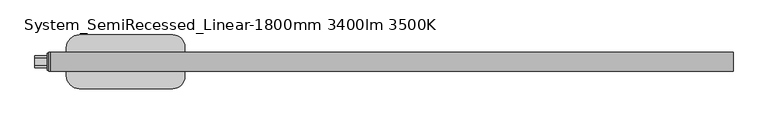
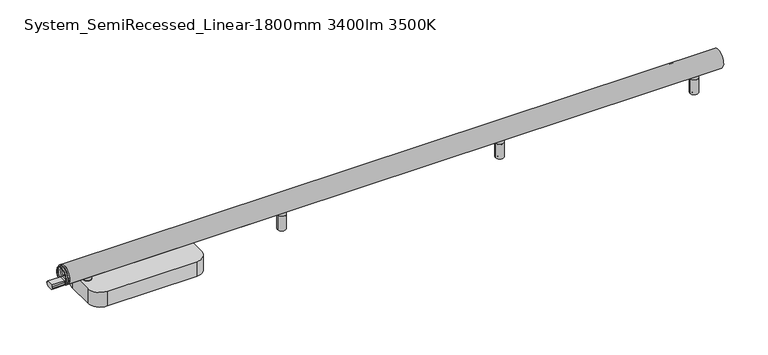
"""IFC4 building model written with IfcOpenShell, lengths in millimetres: light fixture geometry, ARTEMIDE-AoL-System-Linear_WallCeiling_US : System_SemiRecessed_Linear-1800mm 3400lm 3500K."""

from ifc_helpers import new_model, si_unit, point, frame, frame_2d, origin, origin_with_axes, place, context, project, spatial, polyline, circle_curve, trimmed, segment, composite_curve, outline, extrude, source, transform, mapped, element, save
from ifc_brep_helpers import plane_surface, cylinder_surface, revolved_surface, advanced_brep


def system_semirecessed_linear_1800mm_3400lm_3500k_954e0c06(model_context):
    return source(origin(), model_context, "Body", "SolidModel", [
        advanced_brep(
        [(-2.0, 25.0245983, 74.9754017), (-2.0, -25.0245983, 74.9754017), (-2.0, -9.5062575, 60.6916114), (-2.0, -9.5062575, 64.3781516), (-2.0, 9.5062575, 64.3781516), (-2.0, 9.5062575, 60.6916114), (-2.0, 15.4273739, 60.6916114), (-2.0, 17.2867732, 60.6916114), (-2.0, -17.2867732, 60.6916114), (-2.0, -15.4273739, 60.6916114), (2.0, 25.0245983, 74.9754017), (2.0, -25.0245983, 74.9754017), (2.0, -9.5062575, 60.6916114), (2.0, -15.4273739, 60.6916114), (2.0, -17.2867732, 60.6916114), (2.0, 17.2867732, 60.6916114), (2.0, 15.4273739, 60.6916114), (2.0, 9.5062575, 60.6916114), (2.0, 9.5062575, 64.3781516), (2.0, -9.5062575, 64.3781516), (-6.0, -15.4273739, 60.6916114), (-6.0, -17.2867732, 60.6916114), (-6.0, 17.2867732, 60.6916114), (-6.0, 15.4273739, 60.6916114), (6.0, -15.4273739, 60.6916114), (6.0, 15.4273739, 60.6916114), (6.0, 17.2867732, 60.6916114), (6.0, -17.2867732, 60.6916114)],
        [
            (0, 1, circle_curve(frame((-2.0, 0.0, 74.9754017), z_axis=(-1.0, 0.0, 0.0), x_axis=(0.0, -1.0, 0.0)), 25.0245983)),
            (1, 0, circle_curve(frame((-2.0, 0.0, 74.9754017), z_axis=(-1.0, 0.0, 0.0), x_axis=(0.0, -1.0, 0.0)), 25.0245983)),
            (2, 3),
            (3, 4),
            (4, 5),
            (5, 6),
            (6, 7),
            (7, 8, circle_curve(frame((-2.0, 0.0, 74.9754017), z_axis=(1.0, 0.0, 0.0), x_axis=(0.0, -1.0, 0.0)), 22.4245221)),
            (8, 9),
            (9, 2),
            (10, 11, circle_curve(frame((2.0, 0.0, 74.9754017), z_axis=(1.0, 0.0, 0.0), x_axis=(0.0, -1.0, 0.0)), 25.0245983)),
            (11, 10, circle_curve(frame((2.0, 0.0, 74.9754017), z_axis=(1.0, 0.0, 0.0), x_axis=(0.0, -1.0, 0.0)), 25.0245983)),
            (12, 13),
            (13, 14),
            (14, 15, circle_curve(frame((2.0, 0.0, 74.9754017), z_axis=(-1.0, 0.0, 0.0), x_axis=(0.0, -1.0, 0.0)), 22.4245221)),
            (15, 16),
            (16, 17),
            (17, 18),
            (18, 19),
            (19, 12),
            (5, 17),
            (16, 6),
            (9, 13),
            (12, 2),
            (19, 3),
            (0, 10),
            (11, 1),
            (16, 13, circle_curve(frame((2.0, 0.0, 74.9754017), z_axis=(1.0, 0.0, 0.0), x_axis=(0.0, -1.0, 0.0)), 21.0245221)),
            (9, 6, circle_curve(frame((-2.0, 0.0, 74.9754017), z_axis=(-1.0, 0.0, 0.0), x_axis=(0.0, -1.0, 0.0)), 21.0245221)),
            (20, 21),
            (21, 22, circle_curve(frame((-6.0, 0.0, 74.9754017), z_axis=(-1.0, 0.0, 0.0), x_axis=(0.0, -1.0, 0.0)), 22.4245221)),
            (22, 23),
            (23, 20, circle_curve(frame((-6.0, 0.0, 74.9754017), z_axis=(1.0, 0.0, 0.0), x_axis=(0.0, -1.0, 0.0)), 21.0245221)),
            (24, 25, circle_curve(frame((6.0, 0.0, 74.9754017), z_axis=(-1.0, 0.0, 0.0), x_axis=(0.0, -1.0, 0.0)), 21.0245221)),
            (25, 26),
            (26, 27, circle_curve(frame((6.0, 0.0, 74.9754017), z_axis=(1.0, 0.0, 0.0), x_axis=(0.0, -1.0, 0.0)), 22.4245221)),
            (27, 24),
            (23, 6),
            (9, 20),
            (24, 13),
            (16, 25),
            (8, 21),
            (27, 14),
            (7, 22),
            (26, 15),
            (18, 4),
        ],
        [
            plane_surface(frame((-2.0, 0.0, 74.9754017), z_axis=(-1.0, 0.0, 0.0), x_axis=(0.0, 0.0, -1.0))),
            plane_surface(frame((2.0, 0.0, 74.9754017), z_axis=(1.0, 0.0, 0.0), x_axis=(0.0, 0.0, -1.0))),
            plane_surface(frame((-2.0, 9.5062575, 60.6916114), z_axis=(0.0, 0.0, 1.0), x_axis=(1.0, 0.0, 0.0))),
            plane_surface(frame((-2.0, -15.4273739, 60.6916114), z_axis=(0.0, 0.0, 1.0), x_axis=(1.0, 0.0, 0.0))),
            plane_surface(frame((-2.0, -9.5062575, 60.6916114), z_axis=(0.0, -1.0, 0.0), x_axis=(1.0, 0.0, 0.0))),
            cylinder_surface(frame((-2.0, 0.0, 74.9754017), z_axis=(-1.0, 0.0, 0.0), x_axis=(0.0, -1.0, 0.0)), 25.0245983),
            revolved_surface(polyline([(2.0, -21.0245221, 74.9754017), (-2.0, -21.0245221, 74.9754017)]), (-2.0, 0.0, 74.9754017), (1.0, 0.0, 0.0)),
            plane_surface(frame((-6.0, 0.0, 74.9754017), z_axis=(-1.0, 0.0, 0.0), x_axis=(0.0, 0.0, -1.0))),
            plane_surface(frame((6.0, 0.0, 74.9754017), z_axis=(1.0, 0.0, 0.0), x_axis=(0.0, 0.0, -1.0))),
            revolved_surface(polyline([(-2.0, -21.0245221, 74.9754017), (-6.0, -21.0245221, 74.9754017)]), (-6.0, 0.0, 74.9754017), (1.0, 0.0, 0.0)),
            revolved_surface(polyline([(6.0, -21.0245221, 74.9754017), (2.0, -21.0245221, 74.9754017)]), (-6.0, 0.0, 74.9754017), (1.0, 0.0, 0.0)),
            plane_surface(frame((-6.0, -15.4273739, 60.6916114), z_axis=(0.0, 0.0, -1.0), x_axis=(1.0, 0.0, 0.0))),
            cylinder_surface(frame((-6.0, 0.0, 74.9754017), z_axis=(-1.0, 0.0, 0.0), x_axis=(0.0, -1.0, 0.0)), 22.4245221),
            plane_surface(frame((-6.0, 17.2867732, 60.6916114), z_axis=(0.0, 0.0, -1.0), x_axis=(1.0, 0.0, 0.0))),
            plane_surface(frame((-2.0, -9.5062575, 64.3781516), z_axis=(0.0, 0.0, 1.0), x_axis=(1.0, 0.0, 0.0))),
            plane_surface(frame((-2.0, 9.5062575, 64.3781516), z_axis=(0.0, 1.0, 0.0), x_axis=(1.0, 0.0, 0.0))),
        ],
        [
            (0, [[1, 2], [3, 4, 5, 6, 7, 8, 9, 10]]),
            (1, [[11, 12], [13, 14, 15, 16, 17, 18, 19, 20]]),
            (2, [[-6, 21, -17, 22]]),
            (3, [[-10, 23, -13, 24]]),
            (4, [[-3, -24, -20, 25]]),
            (5, [[-1, 26, -12, 27]]),
            (6, [[-22, 28, -23, 29]]),
            (7, [[30, 31, 32, 33]]),
            (8, [[34, 35, 36, 37]]),
            (9, [[-33, 38, -29, 39]]),
            (10, [[-34, 40, -28, 41]]),
            (11, [[-30, -39, -9, 42]]),
            (11, [[-37, 43, -14, -40]]),
            (12, [[-31, -42, -8, 44]]),
            (12, [[-36, 45, -15, -43]]),
            (13, [[-32, -44, -7, -38]]),
            (13, [[-35, -41, -16, -45]]),
            (5, [[-2, -27, -11, -26]]),
            (14, [[-4, -25, -19, 46]]),
            (15, [[-5, -46, -18, -21]]),
        ],
    ),
        extrude(outline(composite_curve([segment(polyline([(-11.75, 57.2067494), (-15.304087, 57.2067494), (-15.304087, 58.7367744), (-9.5062575, 58.7367744), (-9.5062575, 64.3781516), (9.5062575, 64.3781516), (9.5062575, 58.7367744), (15.304087, 58.7367744), (15.304087, 57.2067494), (11.75, 57.2067494), (11.75, 52.880877)]), True, "CONTINUOUS"), segment(trimmed(circle_curve(frame_2d((0.0, 74.9754017)), 25.0245983), [point((11.75, 52.880877))], [point((-11.75, 52.880877))], False, "CARTESIAN"), True, "CONTINUOUS"), segment(polyline([(-11.75, 52.880877), (-11.75, 57.2067494)]), True, "CONTINUOUS")], self_intersect=False)), frame((2.0, 0.0, 0.0), z_axis=(1.0, 0.0, 0.0), x_axis=(0.0, 1.0, 0.0)), (0.0, 0.0, 1.0), 36.0),
        extrude(outline(composite_curve([segment(polyline([(-11.75, 57.2067494), (-15.304087, 57.2067494), (-15.304087, 58.7367744), (-9.5062575, 58.7367744), (-9.5062575, 64.3781516), (9.5062575, 64.3781516), (9.5062575, 58.7367744), (15.304087, 58.7367744), (15.304087, 57.2067494), (11.75, 57.2067494), (11.75, 52.880877)]), True, "CONTINUOUS"), segment(trimmed(circle_curve(frame_2d((0.0, 74.9754017)), 25.0245983), [point((11.75, 52.880877))], [point((-11.75, 52.880877))], False, "CARTESIAN"), True, "CONTINUOUS"), segment(polyline([(-11.75, 52.880877), (-11.75, 57.2067494)]), True, "CONTINUOUS")], self_intersect=False)), frame((-38.0, 0.0, 0.0), z_axis=(1.0, 0.0, 0.0), x_axis=(0.0, 1.0, 0.0)), (0.0, 0.0, 1.0), 36.0),
        advanced_brep(
        [(588.6387897, 0.0, 1.0), (598.027877, 0.0, 1.0), (598.027877, 0.0, 0.0), (588.6387897, 0.0, 0.0), (582.1387897, 0.0, 1.0), (604.527877, 0.0, 1.0), (582.1387897, 0.0, 42.5), (604.527877, 0.0, 42.5), (584.6144141, 0.0, 42.5), (602.0522526, 0.0, 42.5), (584.6144141, 0.0, 43.4995055), (602.0522526, 0.0, 43.4995055), (582.1387897, 0.0, 43.4995055), (604.527877, 0.0, 43.4995055), (582.1387897, 0.0, 52.9333396), (604.527877, 0.0, 52.9333396), (593.3333333, 0.0, 52.9333396), (593.3333333, 0.0, 0.0)],
        [
            (0, 1, circle_curve(frame((593.3333333, 0.0, 1.0), z_axis=(0.0, 0.0, -1.0), x_axis=(1.0, 0.0, 0.0)), 4.6945436)),
            (1, 2),
            (2, 3, circle_curve(frame((593.3333333, 0.0, 0.0), z_axis=(0.0, 0.0, 1.0), x_axis=(1.0, 0.0, 0.0)), 4.6945436)),
            (3, 0),
            (1, 0, circle_curve(frame((593.3333333, 0.0, 1.0), z_axis=(0.0, 0.0, -1.0), x_axis=(1.0, 0.0, 0.0)), 4.6945436)),
            (3, 2, circle_curve(frame((593.3333333, 0.0, 0.0), z_axis=(0.0, 0.0, 1.0), x_axis=(1.0, 0.0, 0.0)), 4.6945436)),
            (4, 5, circle_curve(frame((593.3333333, 0.0, 1.0), z_axis=(0.0, 0.0, -1.0), x_axis=(1.0, 0.0, 0.0)), 11.1945436)),
            (5, 1),
            (0, 4),
            (5, 4, circle_curve(frame((593.3333333, 0.0, 1.0), z_axis=(0.0, 0.0, -1.0), x_axis=(1.0, 0.0, 0.0)), 11.1945436)),
            (6, 7, circle_curve(frame((593.3333333, 0.0, 42.5), z_axis=(0.0, 0.0, -1.0), x_axis=(1.0, 0.0, 0.0)), 11.1945436)),
            (7, 5),
            (4, 6),
            (7, 6, circle_curve(frame((593.3333333, 0.0, 42.5), z_axis=(0.0, 0.0, -1.0), x_axis=(1.0, 0.0, 0.0)), 11.1945436)),
            (8, 9, circle_curve(frame((593.3333333, 0.0, 42.5), z_axis=(0.0, 0.0, -1.0), x_axis=(1.0, 0.0, 0.0)), 8.7189192)),
            (9, 7),
            (6, 8),
            (9, 8, circle_curve(frame((593.3333333, 0.0, 42.5), z_axis=(0.0, 0.0, -1.0), x_axis=(1.0, 0.0, 0.0)), 8.7189192)),
            (10, 11, circle_curve(frame((593.3333333, 0.0, 43.4995055), z_axis=(0.0, 0.0, -1.0), x_axis=(1.0, 0.0, 0.0)), 8.7189192)),
            (11, 9),
            (8, 10),
            (11, 10, circle_curve(frame((593.3333333, 0.0, 43.4995055), z_axis=(0.0, 0.0, -1.0), x_axis=(1.0, 0.0, 0.0)), 8.7189192)),
            (12, 13, circle_curve(frame((593.3333333, 0.0, 43.4995055), z_axis=(0.0, 0.0, -1.0), x_axis=(1.0, 0.0, 0.0)), 11.1945436)),
            (13, 11),
            (10, 12),
            (13, 12, circle_curve(frame((593.3333333, 0.0, 43.4995055), z_axis=(0.0, 0.0, -1.0), x_axis=(1.0, 0.0, 0.0)), 11.1945436)),
            (14, 15, circle_curve(frame((593.3333333, 0.0, 52.9333396), z_axis=(0.0, 0.0, -1.0), x_axis=(1.0, 0.0, 0.0)), 11.1945436)),
            (15, 13),
            (12, 14),
            (15, 14, circle_curve(frame((593.3333333, 0.0, 52.9333396), z_axis=(0.0, 0.0, -1.0), x_axis=(1.0, 0.0, 0.0)), 11.1945436)),
            (16, 15),
            (14, 16),
            (2, 17),
            (17, 3),
        ],
        [
            cylinder_surface(frame((593.3333333, 0.0, -58.83358), z_axis=(0.0, 0.0, 1.0), x_axis=(1.0, 0.0, 0.0)), 4.6945436),
            plane_surface(frame((593.3333333, 0.0, 1.0), z_axis=(0.0, 0.0, -1.0), x_axis=(1.0, 0.0, 0.0))),
            cylinder_surface(frame((593.3333333, 0.0, -58.83358), z_axis=(0.0, 0.0, 1.0), x_axis=(1.0, 0.0, 0.0)), 11.1945436),
            plane_surface(frame((593.3333333, 0.0, 42.5), z_axis=(0.0, 0.0, 1.0), x_axis=(1.0, 0.0, 0.0))),
            cylinder_surface(frame((593.3333333, 0.0, -58.83358), z_axis=(0.0, 0.0, 1.0), x_axis=(1.0, 0.0, 0.0)), 8.7189192),
            plane_surface(frame((593.3333333, 0.0, 43.4995055), z_axis=(0.0, 0.0, -1.0), x_axis=(1.0, 0.0, 0.0))),
            plane_surface(frame((593.3333333, 0.0, 52.9333396), z_axis=(0.0, 0.0, 1.0), x_axis=(1.0, 0.0, 0.0))),
            plane_surface(frame((593.3333333, 0.0, 0.0), z_axis=(0.0, 0.0, -1.0), x_axis=(1.0, 0.0, 0.0))),
        ],
        [
            (0, [[1, 2, 3, 4]]),
            (0, [[5, -4, 6, -2]]),
            (1, [[7, 8, -1, 9]]),
            (1, [[10, -9, -5, -8]]),
            (2, [[11, 12, -7, 13]]),
            (2, [[14, -13, -10, -12]]),
            (3, [[15, 16, -11, 17]]),
            (3, [[18, -17, -14, -16]]),
            (4, [[19, 20, -15, 21]]),
            (4, [[22, -21, -18, -20]]),
            (5, [[23, 24, -19, 25]]),
            (5, [[26, -25, -22, -24]]),
            (2, [[27, 28, -23, 29]]),
            (2, [[30, -29, -26, -28]]),
            (6, [[31, -27, 32]]),
            (6, [[-32, -30, -31]]),
            (7, [[-3, 33, 34]]),
            (7, [[-6, -34, -33]]),
        ],
    ),
        advanced_brep(
        [(1181.972123, 0.0, 1.0), (1191.3612103, 0.0, 1.0), (1191.3612103, 0.0, 0.0), (1181.972123, 0.0, 0.0), (1175.472123, 0.0, 1.0), (1197.8612103, 0.0, 1.0), (1175.472123, 0.0, 42.5), (1197.8612103, 0.0, 42.5), (1177.9477474, 0.0, 42.5), (1195.3855859, 0.0, 42.5), (1177.9477474, 0.0, 43.4995055), (1195.3855859, 0.0, 43.4995055), (1175.472123, 0.0, 43.4995055), (1197.8612103, 0.0, 43.4995055), (1175.472123, 0.0, 52.9333396), (1197.8612103, 0.0, 52.9333396), (1186.6666667, 0.0, 52.9333396), (1186.6666667, 0.0, 0.0)],
        [
            (0, 1, circle_curve(frame((1186.6666667, 0.0, 1.0), z_axis=(0.0, 0.0, -1.0), x_axis=(1.0, 0.0, 0.0)), 4.6945436)),
            (1, 2),
            (2, 3, circle_curve(frame((1186.6666667, 0.0, 0.0), z_axis=(0.0, 0.0, 1.0), x_axis=(1.0, 0.0, 0.0)), 4.6945436)),
            (3, 0),
            (1, 0, circle_curve(frame((1186.6666667, 0.0, 1.0), z_axis=(0.0, 0.0, -1.0), x_axis=(1.0, 0.0, 0.0)), 4.6945436)),
            (3, 2, circle_curve(frame((1186.6666667, 0.0, 0.0), z_axis=(0.0, 0.0, 1.0), x_axis=(1.0, 0.0, 0.0)), 4.6945436)),
            (4, 5, circle_curve(frame((1186.6666667, 0.0, 1.0), z_axis=(0.0, 0.0, -1.0), x_axis=(1.0, 0.0, 0.0)), 11.1945436)),
            (5, 1),
            (0, 4),
            (5, 4, circle_curve(frame((1186.6666667, 0.0, 1.0), z_axis=(0.0, 0.0, -1.0), x_axis=(1.0, 0.0, 0.0)), 11.1945436)),
            (6, 7, circle_curve(frame((1186.6666667, 0.0, 42.5), z_axis=(0.0, 0.0, -1.0), x_axis=(1.0, 0.0, 0.0)), 11.1945436)),
            (7, 5),
            (4, 6),
            (7, 6, circle_curve(frame((1186.6666667, 0.0, 42.5), z_axis=(0.0, 0.0, -1.0), x_axis=(1.0, 0.0, 0.0)), 11.1945436)),
            (8, 9, circle_curve(frame((1186.6666667, 0.0, 42.5), z_axis=(0.0, 0.0, -1.0), x_axis=(1.0, 0.0, 0.0)), 8.7189192)),
            (9, 7),
            (6, 8),
            (9, 8, circle_curve(frame((1186.6666667, 0.0, 42.5), z_axis=(0.0, 0.0, -1.0), x_axis=(1.0, 0.0, 0.0)), 8.7189192)),
            (10, 11, circle_curve(frame((1186.6666667, 0.0, 43.4995055), z_axis=(0.0, 0.0, -1.0), x_axis=(1.0, 0.0, 0.0)), 8.7189192)),
            (11, 9),
            (8, 10),
            (11, 10, circle_curve(frame((1186.6666667, 0.0, 43.4995055), z_axis=(0.0, 0.0, -1.0), x_axis=(1.0, 0.0, 0.0)), 8.7189192)),
            (12, 13, circle_curve(frame((1186.6666667, 0.0, 43.4995055), z_axis=(0.0, 0.0, -1.0), x_axis=(1.0, 0.0, 0.0)), 11.1945436)),
            (13, 11),
            (10, 12),
            (13, 12, circle_curve(frame((1186.6666667, 0.0, 43.4995055), z_axis=(0.0, 0.0, -1.0), x_axis=(1.0, 0.0, 0.0)), 11.1945436)),
            (14, 15, circle_curve(frame((1186.6666667, 0.0, 52.9333396), z_axis=(0.0, 0.0, -1.0), x_axis=(1.0, 0.0, 0.0)), 11.1945436)),
            (15, 13),
            (12, 14),
            (15, 14, circle_curve(frame((1186.6666667, 0.0, 52.9333396), z_axis=(0.0, 0.0, -1.0), x_axis=(1.0, 0.0, 0.0)), 11.1945436)),
            (16, 15),
            (14, 16),
            (2, 17),
            (17, 3),
        ],
        [
            cylinder_surface(frame((1186.6666667, 0.0, -58.83358), z_axis=(0.0, 0.0, 1.0), x_axis=(1.0, 0.0, 0.0)), 4.6945436),
            plane_surface(frame((1186.6666667, 0.0, 1.0), z_axis=(0.0, 0.0, -1.0), x_axis=(1.0, 0.0, 0.0))),
            cylinder_surface(frame((1186.6666667, 0.0, -58.83358), z_axis=(0.0, 0.0, 1.0), x_axis=(1.0, 0.0, 0.0)), 11.1945436),
            plane_surface(frame((1186.6666667, 0.0, 42.5), z_axis=(0.0, 0.0, 1.0), x_axis=(1.0, 0.0, 0.0))),
            cylinder_surface(frame((1186.6666667, 0.0, -58.83358), z_axis=(0.0, 0.0, 1.0), x_axis=(1.0, 0.0, 0.0)), 8.7189192),
            plane_surface(frame((1186.6666667, 0.0, 43.4995055), z_axis=(0.0, 0.0, -1.0), x_axis=(1.0, 0.0, 0.0))),
            plane_surface(frame((1186.6666667, 0.0, 52.9333396), z_axis=(0.0, 0.0, 1.0), x_axis=(1.0, 0.0, 0.0))),
            plane_surface(frame((1186.6666667, 0.0, 0.0), z_axis=(0.0, 0.0, -1.0), x_axis=(1.0, 0.0, 0.0))),
        ],
        [
            (0, [[1, 2, 3, 4]]),
            (0, [[5, -4, 6, -2]]),
            (1, [[7, 8, -1, 9]]),
            (1, [[10, -9, -5, -8]]),
            (2, [[11, 12, -7, 13]]),
            (2, [[14, -13, -10, -12]]),
            (3, [[15, 16, -11, 17]]),
            (3, [[18, -17, -14, -16]]),
            (4, [[19, 20, -15, 21]]),
            (4, [[22, -21, -18, -20]]),
            (5, [[23, 24, -19, 25]]),
            (5, [[26, -25, -22, -24]]),
            (2, [[27, 28, -23, 29]]),
            (2, [[30, -29, -26, -28]]),
            (6, [[31, -27, 32]]),
            (6, [[-32, -30, -31]]),
            (7, [[-3, 33, 34]]),
            (7, [[-6, -34, -33]]),
        ],
    ),
        advanced_brep(
        [(59.3054564, 0.0, 1.0), (68.6945436, 0.0, 1.0), (68.6945436, 0.0, 0.0), (59.3054564, 0.0, 0.0), (52.8054564, 0.0, 1.0), (75.1945436, 0.0, 1.0), (52.8054564, 0.0, 42.5), (75.1945436, 0.0, 42.5), (55.2810808, 0.0, 42.5), (72.7189192, 0.0, 42.5), (55.2810808, 0.0, 43.4995055), (72.7189192, 0.0, 43.4995055), (52.8054564, 0.0, 43.4995055), (75.1945436, 0.0, 43.4995055), (52.8054564, 0.0, 52.9333396), (75.1945436, 0.0, 52.9333396), (64.0, 0.0, 52.9333396), (64.0, 0.0, 0.0)],
        [
            (0, 1, circle_curve(frame((64.0, 0.0, 1.0), z_axis=(0.0, 0.0, -1.0), x_axis=(1.0, 0.0, 0.0)), 4.6945436)),
            (1, 2),
            (2, 3, circle_curve(frame((64.0, 0.0, 0.0), z_axis=(0.0, 0.0, 1.0), x_axis=(1.0, 0.0, 0.0)), 4.6945436)),
            (3, 0),
            (1, 0, circle_curve(frame((64.0, 0.0, 1.0), z_axis=(0.0, 0.0, -1.0), x_axis=(1.0, 0.0, 0.0)), 4.6945436)),
            (3, 2, circle_curve(frame((64.0, 0.0, 0.0), z_axis=(0.0, 0.0, 1.0), x_axis=(1.0, 0.0, 0.0)), 4.6945436)),
            (4, 5, circle_curve(frame((64.0, 0.0, 1.0), z_axis=(0.0, 0.0, -1.0), x_axis=(1.0, 0.0, 0.0)), 11.1945436)),
            (5, 1),
            (0, 4),
            (5, 4, circle_curve(frame((64.0, 0.0, 1.0), z_axis=(0.0, 0.0, -1.0), x_axis=(1.0, 0.0, 0.0)), 11.1945436)),
            (6, 7, circle_curve(frame((64.0, 0.0, 42.5), z_axis=(0.0, 0.0, -1.0), x_axis=(1.0, 0.0, 0.0)), 11.1945436)),
            (7, 5),
            (4, 6),
            (7, 6, circle_curve(frame((64.0, 0.0, 42.5), z_axis=(0.0, 0.0, -1.0), x_axis=(1.0, 0.0, 0.0)), 11.1945436)),
            (8, 9, circle_curve(frame((64.0, 0.0, 42.5), z_axis=(0.0, 0.0, -1.0), x_axis=(1.0, 0.0, 0.0)), 8.7189192)),
            (9, 7),
            (6, 8),
            (9, 8, circle_curve(frame((64.0, 0.0, 42.5), z_axis=(0.0, 0.0, -1.0), x_axis=(1.0, 0.0, 0.0)), 8.7189192)),
            (10, 11, circle_curve(frame((64.0, 0.0, 43.4995055), z_axis=(0.0, 0.0, -1.0), x_axis=(1.0, 0.0, 0.0)), 8.7189192)),
            (11, 9),
            (8, 10),
            (11, 10, circle_curve(frame((64.0, 0.0, 43.4995055), z_axis=(0.0, 0.0, -1.0), x_axis=(1.0, 0.0, 0.0)), 8.7189192)),
            (12, 13, circle_curve(frame((64.0, 0.0, 43.4995055), z_axis=(0.0, 0.0, -1.0), x_axis=(1.0, 0.0, 0.0)), 11.1945436)),
            (13, 11),
            (10, 12),
            (13, 12, circle_curve(frame((64.0, 0.0, 43.4995055), z_axis=(0.0, 0.0, -1.0), x_axis=(1.0, 0.0, 0.0)), 11.1945436)),
            (14, 15, circle_curve(frame((64.0, 0.0, 52.9333396), z_axis=(0.0, 0.0, -1.0), x_axis=(1.0, 0.0, 0.0)), 11.1945436)),
            (15, 13),
            (12, 14),
            (15, 14, circle_curve(frame((64.0, 0.0, 52.9333396), z_axis=(0.0, 0.0, -1.0), x_axis=(1.0, 0.0, 0.0)), 11.1945436)),
            (16, 15),
            (14, 16),
            (2, 17),
            (17, 3),
        ],
        [
            cylinder_surface(frame((64.0, 0.0, -58.83358), z_axis=(0.0, 0.0, 1.0), x_axis=(1.0, 0.0, 0.0)), 4.6945436),
            plane_surface(frame((64.0, 0.0, 1.0), z_axis=(0.0, 0.0, -1.0), x_axis=(1.0, 0.0, 0.0))),
            cylinder_surface(frame((64.0, 0.0, -58.83358), z_axis=(0.0, 0.0, 1.0), x_axis=(1.0, 0.0, 0.0)), 11.1945436),
            plane_surface(frame((64.0, 0.0, 42.5), z_axis=(0.0, 0.0, 1.0), x_axis=(1.0, 0.0, 0.0))),
            cylinder_surface(frame((64.0, 0.0, -58.83358), z_axis=(0.0, 0.0, 1.0), x_axis=(1.0, 0.0, 0.0)), 8.7189192),
            plane_surface(frame((64.0, 0.0, 43.4995055), z_axis=(0.0, 0.0, -1.0), x_axis=(1.0, 0.0, 0.0))),
            plane_surface(frame((64.0, 0.0, 52.9333396), z_axis=(0.0, 0.0, 1.0), x_axis=(1.0, 0.0, 0.0))),
            plane_surface(frame((64.0, 0.0, 0.0), z_axis=(0.0, 0.0, -1.0), x_axis=(1.0, 0.0, 0.0))),
        ],
        [
            (0, [[1, 2, 3, 4]]),
            (0, [[5, -4, 6, -2]]),
            (1, [[7, 8, -1, 9]]),
            (1, [[10, -9, -5, -8]]),
            (2, [[11, 12, -7, 13]]),
            (2, [[14, -13, -10, -12]]),
            (3, [[15, 16, -11, 17]]),
            (3, [[18, -17, -14, -16]]),
            (4, [[19, 20, -15, 21]]),
            (4, [[22, -21, -18, -20]]),
            (5, [[23, 24, -19, 25]]),
            (5, [[26, -25, -22, -24]]),
            (2, [[27, 28, -23, 29]]),
            (2, [[30, -29, -26, -28]]),
            (6, [[31, -27, 32]]),
            (6, [[-32, -30, -31]]),
            (7, [[-3, 33, 34]]),
            (7, [[-6, -34, -33]]),
        ],
    ),
        advanced_brep(
        [(1711.3054564, 0.0, 1.0), (1720.6945436, 0.0, 1.0), (1720.6945436, 0.0, 0.0), (1711.3054564, 0.0, 0.0), (1704.8054564, 0.0, 1.0), (1727.1945436, 0.0, 1.0), (1704.8054564, 0.0, 42.5), (1727.1945436, 0.0, 42.5), (1707.2810808, 0.0, 42.5), (1724.7189192, 0.0, 42.5), (1707.2810808, 0.0, 43.4995055), (1724.7189192, 0.0, 43.4995055), (1704.8054564, 0.0, 43.4995055), (1727.1945436, 0.0, 43.4995055), (1704.8054564, 0.0, 52.9333396), (1727.1945436, 0.0, 52.9333396), (1716.0, 0.0, 52.9333396), (1716.0, 0.0, 0.0)],
        [
            (0, 1, circle_curve(frame((1716.0, 0.0, 1.0), z_axis=(0.0, 0.0, -1.0), x_axis=(1.0, 0.0, 0.0)), 4.6945436)),
            (1, 2),
            (2, 3, circle_curve(frame((1716.0, 0.0, 0.0), z_axis=(0.0, 0.0, 1.0), x_axis=(1.0, 0.0, 0.0)), 4.6945436)),
            (3, 0),
            (1, 0, circle_curve(frame((1716.0, 0.0, 1.0), z_axis=(0.0, 0.0, -1.0), x_axis=(1.0, 0.0, 0.0)), 4.6945436)),
            (3, 2, circle_curve(frame((1716.0, 0.0, 0.0), z_axis=(0.0, 0.0, 1.0), x_axis=(1.0, 0.0, 0.0)), 4.6945436)),
            (4, 5, circle_curve(frame((1716.0, 0.0, 1.0), z_axis=(0.0, 0.0, -1.0), x_axis=(1.0, 0.0, 0.0)), 11.1945436)),
            (5, 1),
            (0, 4),
            (5, 4, circle_curve(frame((1716.0, 0.0, 1.0), z_axis=(0.0, 0.0, -1.0), x_axis=(1.0, 0.0, 0.0)), 11.1945436)),
            (6, 7, circle_curve(frame((1716.0, 0.0, 42.5), z_axis=(0.0, 0.0, -1.0), x_axis=(1.0, 0.0, 0.0)), 11.1945436)),
            (7, 5),
            (4, 6),
            (7, 6, circle_curve(frame((1716.0, 0.0, 42.5), z_axis=(0.0, 0.0, -1.0), x_axis=(1.0, 0.0, 0.0)), 11.1945436)),
            (8, 9, circle_curve(frame((1716.0, 0.0, 42.5), z_axis=(0.0, 0.0, -1.0), x_axis=(1.0, 0.0, 0.0)), 8.7189192)),
            (9, 7),
            (6, 8),
            (9, 8, circle_curve(frame((1716.0, 0.0, 42.5), z_axis=(0.0, 0.0, -1.0), x_axis=(1.0, 0.0, 0.0)), 8.7189192)),
            (10, 11, circle_curve(frame((1716.0, 0.0, 43.4995055), z_axis=(0.0, 0.0, -1.0), x_axis=(1.0, 0.0, 0.0)), 8.7189192)),
            (11, 9),
            (8, 10),
            (11, 10, circle_curve(frame((1716.0, 0.0, 43.4995055), z_axis=(0.0, 0.0, -1.0), x_axis=(1.0, 0.0, 0.0)), 8.7189192)),
            (12, 13, circle_curve(frame((1716.0, 0.0, 43.4995055), z_axis=(0.0, 0.0, -1.0), x_axis=(1.0, 0.0, 0.0)), 11.1945436)),
            (13, 11),
            (10, 12),
            (13, 12, circle_curve(frame((1716.0, 0.0, 43.4995055), z_axis=(0.0, 0.0, -1.0), x_axis=(1.0, 0.0, 0.0)), 11.1945436)),
            (14, 15, circle_curve(frame((1716.0, 0.0, 52.9333396), z_axis=(0.0, 0.0, -1.0), x_axis=(1.0, 0.0, 0.0)), 11.1945436)),
            (15, 13),
            (12, 14),
            (15, 14, circle_curve(frame((1716.0, 0.0, 52.9333396), z_axis=(0.0, 0.0, -1.0), x_axis=(1.0, 0.0, 0.0)), 11.1945436)),
            (16, 15),
            (14, 16),
            (2, 17),
            (17, 3),
        ],
        [
            cylinder_surface(frame((1716.0, 0.0, -58.83358), z_axis=(0.0, 0.0, 1.0), x_axis=(1.0, 0.0, 0.0)), 4.6945436),
            plane_surface(frame((1716.0, 0.0, 1.0), z_axis=(0.0, 0.0, -1.0), x_axis=(1.0, 0.0, 0.0))),
            cylinder_surface(frame((1716.0, 0.0, -58.83358), z_axis=(0.0, 0.0, 1.0), x_axis=(1.0, 0.0, 0.0)), 11.1945436),
            plane_surface(frame((1716.0, 0.0, 42.5), z_axis=(0.0, 0.0, 1.0), x_axis=(1.0, 0.0, 0.0))),
            cylinder_surface(frame((1716.0, 0.0, -58.83358), z_axis=(0.0, 0.0, 1.0), x_axis=(1.0, 0.0, 0.0)), 8.7189192),
            plane_surface(frame((1716.0, 0.0, 43.4995055), z_axis=(0.0, 0.0, -1.0), x_axis=(1.0, 0.0, 0.0))),
            plane_surface(frame((1716.0, 0.0, 52.9333396), z_axis=(0.0, 0.0, 1.0), x_axis=(1.0, 0.0, 0.0))),
            plane_surface(frame((1716.0, 0.0, 0.0), z_axis=(0.0, 0.0, -1.0), x_axis=(1.0, 0.0, 0.0))),
        ],
        [
            (0, [[1, 2, 3, 4]]),
            (0, [[5, -4, 6, -2]]),
            (1, [[7, 8, -1, 9]]),
            (1, [[10, -9, -5, -8]]),
            (2, [[11, 12, -7, 13]]),
            (2, [[14, -13, -10, -12]]),
            (3, [[15, 16, -11, 17]]),
            (3, [[18, -17, -14, -16]]),
            (4, [[19, 20, -15, 21]]),
            (4, [[22, -21, -18, -20]]),
            (5, [[23, 24, -19, 25]]),
            (5, [[26, -25, -22, -24]]),
            (2, [[27, 28, -23, 29]]),
            (2, [[30, -29, -26, -28]]),
            (6, [[31, -27, 32]]),
            (6, [[-32, -30, -31]]),
            (7, [[-3, 33, 34]]),
            (7, [[-6, -34, -33]]),
        ],
    ),
        extrude(outline(composite_curve([segment(trimmed(circle_curve(frame_2d((0.0, 75.0)), 25.0), [point((-11.75, 52.9333396))], [point((11.75, 52.9333396))], False, "CARTESIAN"), True, "CONTINUOUS"), segment(polyline([(11.75, 52.9333396), (11.75, 57.259212), (13.667754, 57.259212), (13.667754, 55.8288843), (15.617754, 57.2440748), (15.617754, 59.244074), (12.667754, 59.244074), (12.667754, 60.744074), (17.2779794, 60.744074)]), True, "CONTINUOUS"), segment(trimmed(circle_curve(frame_2d((0.0, 75.0)), 22.4), [point((17.2779794, 60.744074))], [point((-17.2779794, 60.744074))], True, "CARTESIAN"), True, "CONTINUOUS"), segment(polyline([(-17.2779794, 60.744074), (-12.667754, 60.744074), (-12.667754, 59.244074), (-15.617754, 59.244074), (-15.617754, 57.2440748), (-13.667754, 55.8288843), (-13.667754, 57.259212), (-11.75, 57.259212), (-11.75, 52.9333396)]), True, "CONTINUOUS")], self_intersect=False)), frame((2.0, 0.0, 0.0), z_axis=(1.0, 0.0, 0.0), x_axis=(0.0, 1.0, 0.0)), (0.0, 0.0, 1.0), 1780.0),
        extrude(outline(composite_curve([segment(trimmed(circle_curve(frame_2d((0.0, 75.0)), 25.0), [point((11.75, 52.9333396))], [point((-11.75, 52.9333396))], False, "CARTESIAN"), True, "CONTINUOUS"), segment(polyline([(-11.75, 52.9333396), (-11.75, 57.259212), (-15.304087, 57.259212), (-15.304087, 58.785971), (-9.5062575, 58.785971), (-9.5062575, 64.4273482), (9.5062575, 64.4273482), (9.5062575, 58.785971), (15.304087, 58.785971), (15.304087, 57.259212), (11.75, 57.259212), (11.75, 52.9333396)]), True, "CONTINUOUS")], self_intersect=False)), frame((38.0, 0.0, 0.0), z_axis=(1.0, 0.0, 0.0), x_axis=(0.0, 1.0, 0.0)), (0.0, 0.0, 1.0), 1744.0),
        extrude(outline(composite_curve([segment(polyline([(77.8708919, 70.0), (321.7624415, 70.0)]), True, "CONTINUOUS"), segment(trimmed(circle_curve(frame_2d((321.7624415, 39.1291081)), 30.8708919), [point((321.7624415, 70.0))], [point((352.6333333, 39.1291081))], False, "CARTESIAN"), True, "CONTINUOUS"), segment(polyline([(352.6333333, 39.1291081), (352.6333333, -39.1500001)]), True, "CONTINUOUS"), segment(trimmed(circle_curve(frame_2d((321.7624415, -39.1500001)), 30.8708919), [point((352.6333333, -39.1500001))], [point((321.7624415, -70.020892))], False, "CARTESIAN"), True, "CONTINUOUS"), segment(polyline([(321.7624415, -70.020892), (77.8708919, -70.020892)]), True, "CONTINUOUS"), segment(trimmed(circle_curve(frame_2d((77.8708919, -36.4833335)), 33.5375585), [point((77.8708919, -70.020892))], [point((44.3333333, -36.4833335))], False, "CARTESIAN"), True, "CONTINUOUS"), segment(polyline([(44.3333333, -36.4833335), (44.3333333, 36.4624415)]), True, "CONTINUOUS"), segment(trimmed(circle_curve(frame_2d((77.8708919, 36.4624415)), 33.5375585), [point((44.3333333, 36.4624415))], [point((77.8708919, 70.0))], False, "CARTESIAN"), True, "CONTINUOUS")], self_intersect=False)), origin_with_axes(), (0.0, 0.0, 1.0), 42.0),
    ])


if __name__ == "__main__":
    model = new_model("IFC4")
    model_context = context("Model", 3, world=origin())
    ifc_project = project(units=[si_unit("LENGTHUNIT", "METRE", prefix="MILLI")], contexts=[model_context])
    site = spatial("IfcSite", under=ifc_project)
    building = spatial("IfcBuilding", under=site)
    placement = place(None, origin())
    system_semirecessed_linear_1800mm_3400lm_3500k_shape = system_semirecessed_linear_1800mm_3400lm_3500k_954e0c06(model_context)
    element("IfcLightFixture", 1, ObjectType="ARTEMIDE-AoL-System-Linear_WallCeiling_US : System_SemiRecessed_Linear-1800mm 3400lm 3500K", at=placement, inside=building, context=model_context, shape_type="MappedRepresentation", body=[
        mapped(system_semirecessed_linear_1800mm_3400lm_3500k_shape, transform((0.0, 0.0, 0.0), x_axis=(1.0, 0.0, 0.0), y_axis=(0.0, 1.0, 0.0), z_axis=(0.0, 0.0, 1.0))),
    ])
    save(model, "model.ifc")
